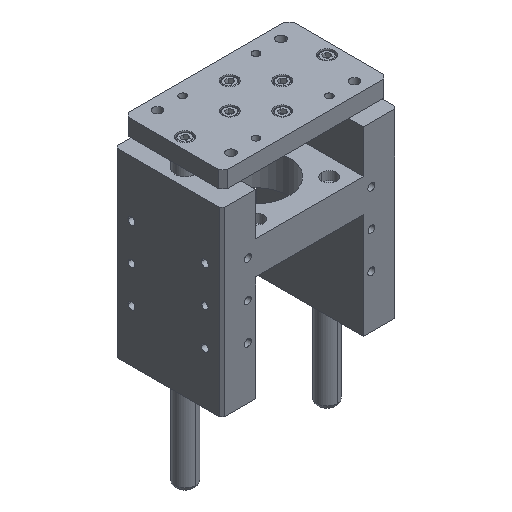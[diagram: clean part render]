
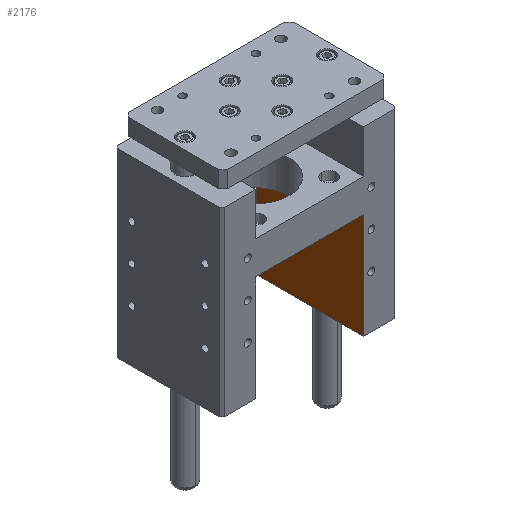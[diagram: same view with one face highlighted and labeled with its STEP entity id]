
A CAD part, isometric view. The second image highlights one B-rep face of the part: STEP entity #2176.
In plain terms, the highlighted planar face has unit normal (-1, 0, 0).
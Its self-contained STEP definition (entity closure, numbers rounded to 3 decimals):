
#677 = DIRECTION ( 'NONE',  ( 1., 0., 0. ) ) ;
#2176 = ADVANCED_FACE ( 'NONE', ( #2651 ), #22441, .F. ) ;
#2651 = FACE_OUTER_BOUND ( 'NONE', #12451, .T. ) ;
#2848 = VERTEX_POINT ( 'NONE', #23864 ) ;
#3304 = CARTESIAN_POINT ( 'NONE',  ( 65.5, 110., 128. ) ) ;
#3357 = LINE ( 'NONE', #3304, #10952 ) ;
#3858 = CARTESIAN_POINT ( 'NONE',  ( 65.5, 240., 0. ) ) ;
#4564 = CARTESIAN_POINT ( 'NONE',  ( 65.5, 110., 0. ) ) ;
#4892 = ORIENTED_EDGE ( 'NONE', *, *, #17121, .F. ) ;
#5095 = VECTOR ( 'NONE', #13008, 1000. ) ;
#6162 = VECTOR ( 'NONE', #24052, 1000. ) ;
#6244 = EDGE_CURVE ( 'NONE', #18576, #18430, #8221, .T. ) ;
#6493 = LINE ( 'NONE', #22284, #9004 ) ;
#6591 = DIRECTION ( 'NONE',  ( 0., 0., -1. ) ) ;
#6736 = ORIENTED_EDGE ( 'NONE', *, *, #6244, .F. ) ;
#8066 = ORIENTED_EDGE ( 'NONE', *, *, #11409, .T. ) ;
#8095 = CARTESIAN_POINT ( 'NONE',  ( 65.5, 110., 0. ) ) ;
#8221 = LINE ( 'NONE', #8947, #5095 ) ;
#8947 = CARTESIAN_POINT ( 'NONE',  ( 65.5, 240., 220. ) ) ;
#9004 = VECTOR ( 'NONE', #10393, 1000. ) ;
#10393 = DIRECTION ( 'NONE',  ( 0., 0., 1. ) ) ;
#10952 = VECTOR ( 'NONE', #15428, 1000. ) ;
#11409 = EDGE_CURVE ( 'NONE', #18576, #17861, #13084, .T. ) ;
#12451 = EDGE_LOOP ( 'NONE', ( #8066, #21615, #4892, #6736 ) ) ;
#13008 = DIRECTION ( 'NONE',  ( 0., 0., 1. ) ) ;
#13084 = LINE ( 'NONE', #3858, #6162 ) ;
#15428 = DIRECTION ( 'NONE',  ( 0., -1., 0. ) ) ;
#17121 = EDGE_CURVE ( 'NONE', #18430, #2848, #3357, .T. ) ;
#17827 = EDGE_CURVE ( 'NONE', #17861, #2848, #6493, .T. ) ;
#17861 = VERTEX_POINT ( 'NONE', #8095 ) ;
#18430 = VERTEX_POINT ( 'NONE', #24629 ) ;
#18576 = VERTEX_POINT ( 'NONE', #21071 ) ;
#21071 = CARTESIAN_POINT ( 'NONE',  ( 65.5, 240., 0. ) ) ;
#21615 = ORIENTED_EDGE ( 'NONE', *, *, #17827, .T. ) ;
#22284 = CARTESIAN_POINT ( 'NONE',  ( 65.5, 110., 220. ) ) ;
#22441 = PLANE ( 'NONE',  #23025 ) ;
#23025 = AXIS2_PLACEMENT_3D ( 'NONE', #4564, #677, #6591 ) ;
#23864 = CARTESIAN_POINT ( 'NONE',  ( 65.5, 110., 128. ) ) ;
#24052 = DIRECTION ( 'NONE',  ( 0., -1., 0. ) ) ;
#24629 = CARTESIAN_POINT ( 'NONE',  ( 65.5, 240., 128. ) ) ;
